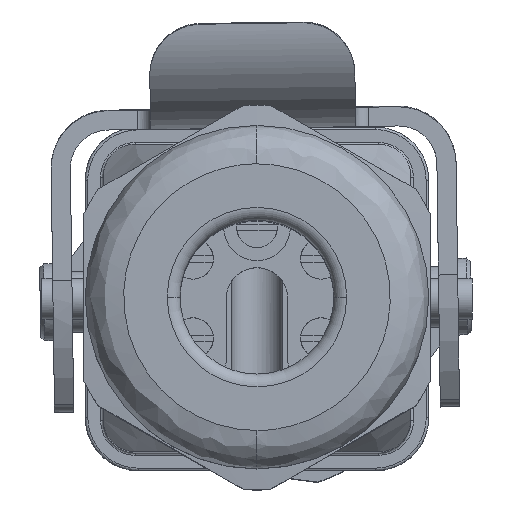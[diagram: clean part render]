
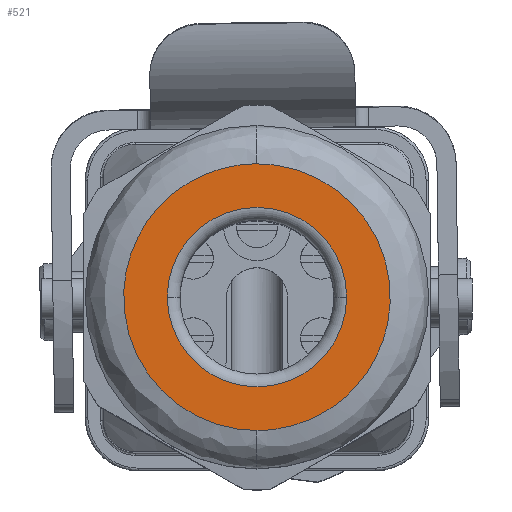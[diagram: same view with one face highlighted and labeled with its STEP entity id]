
A CAD part, top view. The second image highlights one B-rep face of the part: STEP entity #521.
In plain terms, the highlighted planar face has unit normal (0, 0, 1).
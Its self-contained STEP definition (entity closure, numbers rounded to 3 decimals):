
#521 = ADVANCED_FACE ( 'NONE', ( #23610, #10479 ), #581, .T. ) ;
#581 = PLANE ( 'NONE',  #16020 ) ;
#1183 = CARTESIAN_POINT ( 'NONE',  ( -10.4, 10.4, 35.5 ) ) ;
#1741 = DIRECTION ( 'NONE',  ( 0., 0., 1. ) ) ;
#2258 = DIRECTION ( 'NONE',  ( 0., 0., -1. ) ) ;
#2464 = EDGE_LOOP ( 'NONE', ( #5132, #51812 ) ) ;
#5132 = ORIENTED_EDGE ( 'NONE', *, *, #28370, .F. ) ;
#5697 = VERTEX_POINT ( 'NONE', #39463 ) ;
#6154 = ORIENTED_EDGE ( 'NONE', *, *, #35269, .T. ) ;
#7306 = DIRECTION ( 'NONE',  ( 1., 0., 0. ) ) ;
#7490 = DIRECTION ( 'NONE',  ( 1., 0., 0. ) ) ;
#8103 = CARTESIAN_POINT ( 'NONE',  ( 0., -10.4, 35.5 ) ) ;
#10479 = FACE_BOUND ( 'NONE', #55856, .T. ) ;
#12738 = CARTESIAN_POINT ( 'NONE',  ( 0., 10.4, 35.5 ) ) ;
#16020 = AXIS2_PLACEMENT_3D ( 'NONE', #1183, #1741, #19516 ) ;
#16046 = DIRECTION ( 'NONE',  ( 0., 0., -1. ) ) ;
#16348 = CARTESIAN_POINT ( 'NONE',  ( 20.8, 10.4, 35.5 ) ) ;
#17144 = CARTESIAN_POINT ( 'NONE',  ( -20.8, 10.4, 35.5 ) ) ;
#19034 = CARTESIAN_POINT ( 'NONE',  ( 7., 0., 35.5 ) ) ;
#19516 = DIRECTION ( 'NONE',  ( 1., 0., 0. ) ) ;
#19890 = EDGE_CURVE ( 'NONE', #50617, #31343, #21346, .T. ) ;
#21346 =( BOUNDED_CURVE ( )  B_SPLINE_CURVE ( 3, ( #56255, #16348, #34165, #51869 ),
 .UNSPECIFIED., .F., .F. ) 
 B_SPLINE_CURVE_WITH_KNOTS ( ( 4, 4 ),
 ( 0., 1. ),
 .UNSPECIFIED. ) 
 CURVE ( )  GEOMETRIC_REPRESENTATION_ITEM ( )  RATIONAL_B_SPLINE_CURVE ( ( 1., 0.333, 0.333, 1. ) ) 
 REPRESENTATION_ITEM ( '' )  );
#22190 = CIRCLE ( 'NONE', #45418, 7. ) ;
#23610 = FACE_OUTER_BOUND ( 'NONE', #2464, .T. ) ;
#25085 = CARTESIAN_POINT ( 'NONE',  ( 0., 0., 35.5 ) ) ;
#26837 = CIRCLE ( 'NONE', #33404, 7. ) ;
#28370 = EDGE_CURVE ( 'NONE', #31343, #50617, #53726, .T. ) ;
#31343 = VERTEX_POINT ( 'NONE', #38848 ) ;
#33404 = AXIS2_PLACEMENT_3D ( 'NONE', #25085, #16046, #7306 ) ;
#34165 = CARTESIAN_POINT ( 'NONE',  ( 20.8, -10.4, 35.5 ) ) ;
#35219 = CARTESIAN_POINT ( 'NONE',  ( 0., 10.4, 35.5 ) ) ;
#35269 = EDGE_CURVE ( 'NONE', #5697, #55614, #26837, .T. ) ;
#38848 = CARTESIAN_POINT ( 'NONE',  ( 0., -10.4, 35.5 ) ) ;
#39316 = CARTESIAN_POINT ( 'NONE',  ( -20.8, -10.4, 35.5 ) ) ;
#39463 = CARTESIAN_POINT ( 'NONE',  ( -7., 0., 35.5 ) ) ;
#42190 = CARTESIAN_POINT ( 'NONE',  ( 0., 0., 35.5 ) ) ;
#45418 = AXIS2_PLACEMENT_3D ( 'NONE', #42190, #2258, #7490 ) ;
#50617 = VERTEX_POINT ( 'NONE', #35219 ) ;
#51654 = EDGE_CURVE ( 'NONE', #55614, #5697, #22190, .T. ) ;
#51812 = ORIENTED_EDGE ( 'NONE', *, *, #19890, .F. ) ;
#51869 = CARTESIAN_POINT ( 'NONE',  ( 0., -10.4, 35.5 ) ) ;
#53726 =( BOUNDED_CURVE ( )  B_SPLINE_CURVE ( 3, ( #8103, #39316, #17144, #12738 ),
 .UNSPECIFIED., .F., .F. ) 
 B_SPLINE_CURVE_WITH_KNOTS ( ( 4, 4 ),
 ( 0., 1. ),
 .UNSPECIFIED. ) 
 CURVE ( )  GEOMETRIC_REPRESENTATION_ITEM ( )  RATIONAL_B_SPLINE_CURVE ( ( 1., 0.333, 0.333, 1. ) ) 
 REPRESENTATION_ITEM ( '' )  );
#54586 = ORIENTED_EDGE ( 'NONE', *, *, #51654, .T. ) ;
#55614 = VERTEX_POINT ( 'NONE', #19034 ) ;
#55856 = EDGE_LOOP ( 'NONE', ( #54586, #6154 ) ) ;
#56255 = CARTESIAN_POINT ( 'NONE',  ( 0., 10.4, 35.5 ) ) ;
